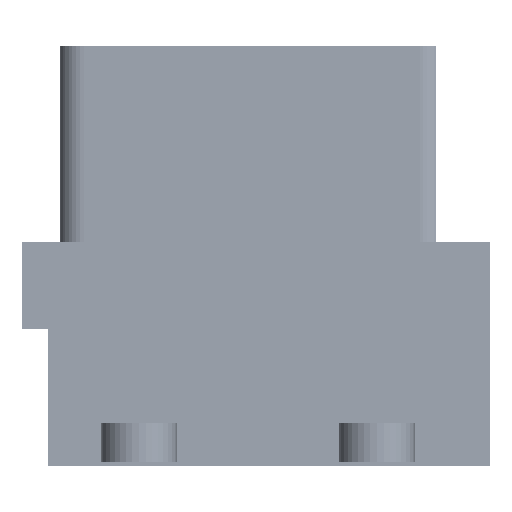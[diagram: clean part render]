
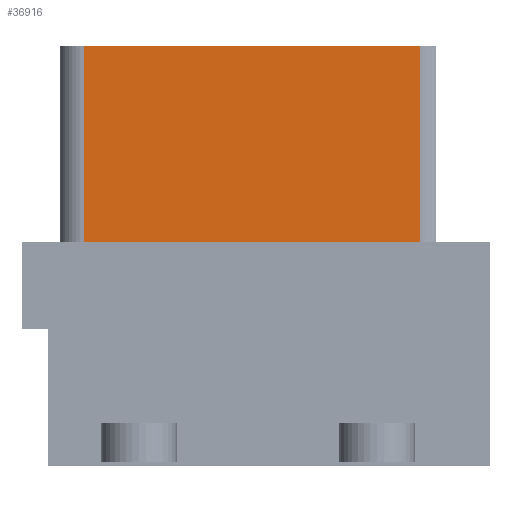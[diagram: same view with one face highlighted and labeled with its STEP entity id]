
A CAD part, left-side view. The second image highlights one B-rep face of the part: STEP entity #36916.
In plain terms, the highlighted planar face has unit normal (-1, 0, 0).
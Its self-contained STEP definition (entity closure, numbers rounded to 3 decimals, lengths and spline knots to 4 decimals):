
#2012=LINE($,#51489,#3307);
#3143=LINE($,#59509,#4438);
#3220=LINE($,#64091,#4515);
#3237=LINE($,#64392,#4532);
#3307=VECTOR($,#41598,0.495);
#4438=VECTOR($,#43377,0.845);
#4515=VECTOR($,#49058,0.495);
#4532=VECTOR($,#49621,0.845);
#5242=PLANE($,#40671);
#10142=FACE_OUTER_BOUND($,#14503,.T.);
#14503=EDGE_LOOP($,(#32664,#32665,#32666,#32667));
#17884=VERTEX_POINT($,#51486);
#17885=VERTEX_POINT($,#51488);
#19090=VERTEX_POINT($,#59507);
#20793=VERTEX_POINT($,#64089);
#21408=EDGE_CURVE($,#17884,#17885,#2012,.T.);
#23213=EDGE_CURVE($,#17884,#19090,#3143,.T.);
#24940=EDGE_CURVE($,#20793,#19090,#3220,.T.);
#24963=EDGE_CURVE($,#17885,#20793,#3237,.T.);
#32664=ORIENTED_EDGE($,*,*,#24940,.F.);
#32665=ORIENTED_EDGE($,*,*,#24963,.F.);
#32666=ORIENTED_EDGE($,*,*,#21408,.F.);
#32667=ORIENTED_EDGE($,*,*,#23213,.T.);
#36916=ADVANCED_FACE($,(#10142),#5242,.T.);
#40671=AXIS2_PLACEMENT_3D($,#64391,#49619,#49620);
#41598=DIRECTION($,(0.,0.,-1.));
#43377=DIRECTION($,(0.,1.,0.));
#49058=DIRECTION($,(0.,0.,1.));
#49619=DIRECTION('center_axis',(-1.,0.,0.));
#49620=DIRECTION('ref_axis',(0.,0.,1.));
#49621=DIRECTION($,(0.,1.,0.));
#51486=CARTESIAN_POINT('',(11.8731,9.8617,0.783));
#51488=CARTESIAN_POINT('',(11.8731,9.8617,0.288));
#51489=CARTESIAN_POINT($,(11.8731,9.8617,0.783));
#59507=CARTESIAN_POINT('',(11.8731,10.7067,0.783));
#59509=CARTESIAN_POINT($,(11.8731,9.8617,0.783));
#64089=CARTESIAN_POINT('',(11.8731,10.7067,0.288));
#64091=CARTESIAN_POINT($,(11.8731,10.7067,0.288));
#64391=CARTESIAN_POINT('Origin',(11.8731,9.7992,0.288));
#64392=CARTESIAN_POINT($,(11.8731,9.8617,0.288));
